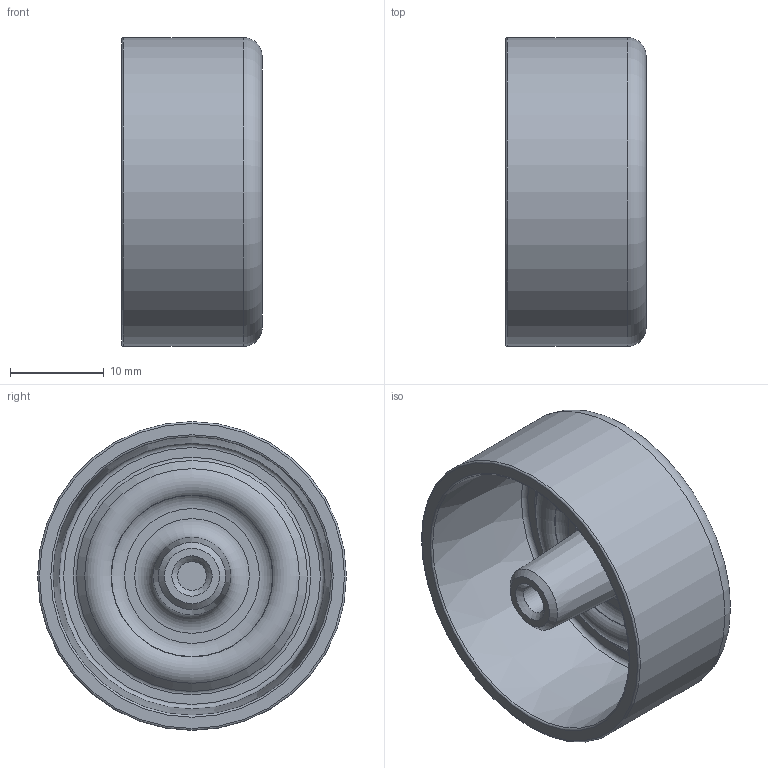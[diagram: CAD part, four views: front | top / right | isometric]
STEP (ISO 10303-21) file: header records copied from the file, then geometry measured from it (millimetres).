
FILE_DESCRIPTION(/* description */ ('STEP AP242','CAx-IF Rec.Pracs.---Representation and Presentation of Product Manufacturing Information (PMI)---4.0---2014-10-13','CAx-IF Rec.Pracs.---3D Tessellated Geometry---0.4---2014-09-14','2;1'),/* implementation_level */ '2;1');
FILE_NAME(/* name */ '6892d0daeb96234880dab5a0',/* time_stamp */ '2025-08-06T03:49:48Z',/* author */ (''),/* organization */ (''),/* preprocessor_version */ 'ST-DEVELOPER v20',/* originating_system */ 'ONSHAPE BY PTC INC, 1.201',/* authorisation */ ' ');
FILE_SCHEMA (('AP242_MANAGED_MODEL_BASED_3D_ENGINEERING_MIM_LF { 1 0 10303 442 1 1 4 }'));
Length unit declared in the file: metre
Products named in the file (1): WTS Narrow Wheel
Bounding box: 15 x 33 x 33 mm (x, y, z)
Volume: 4517.5 mm3; surface area: 4913.4 mm2
Topology: 1 solids, 1 shells, 368 faces, 807 edges, 447 vertices
Faces by surface type: torus 104, cylinder 80, bspline 70, cone 57, plane 50, sphere 7
Full cylindrical faces by diameter (mm): 2.652 x1, 3.1 x1, 33 x1
Entity records: 11181 total; most frequent: CARTESIAN_POINT 3586, DIRECTION 1645, ORIENTED_EDGE 1530, EDGE_CURVE 765, AXIS2_PLACEMENT_3D 721, VERTEX_POINT 436, CIRCLE 422, EDGE_LOOP 405
